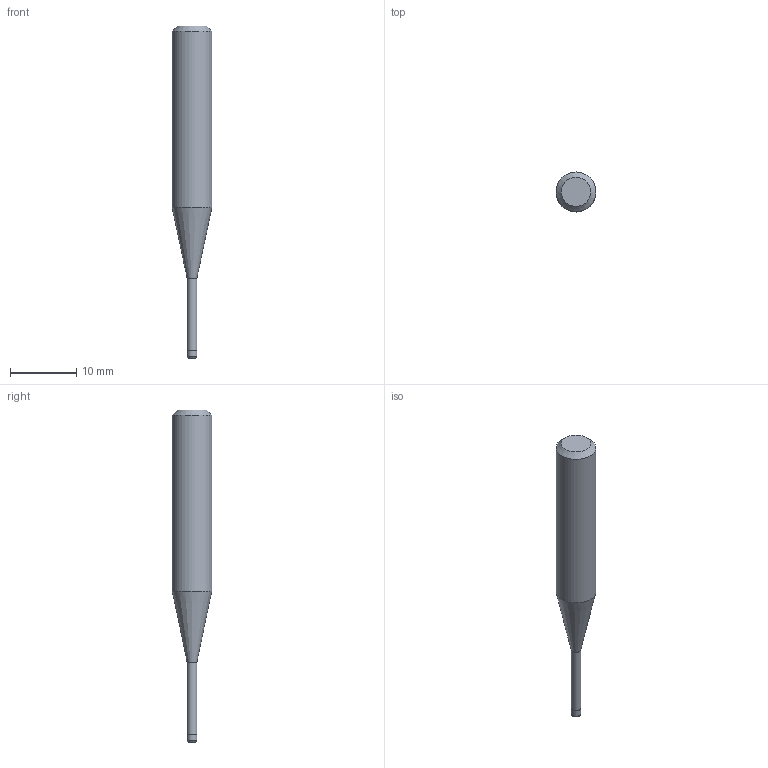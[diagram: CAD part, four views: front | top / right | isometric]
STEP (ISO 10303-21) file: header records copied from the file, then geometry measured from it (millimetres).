
FILE_DESCRIPTION((''),'2;1');
FILE_NAME('C:\Users\nsx150\AppData\Local\Temp\Mastercam 2021\17T8Q8S9EB\TEMP.step','2021-04-21T14:35:52',(''),(''),'STEP Write','Mastercam 2021 ... CNC Software, Inc.','');
FILE_SCHEMA(('AUTOMOTIVE_DESIGN'));
Length unit declared in the file: millimetre
Products named in the file (1): None
Bounding box: 6 x 6 x 50 mm (x, y, z)
Volume: 917.4 mm3; surface area: 720.8 mm2
Topology: 2 solids, 2 shells, 10 faces, 14 edges, 8 vertices
Faces by surface type: plane 4, cylinder 3, cone 2, torus 1
Full cylindrical faces by diameter (mm): 1.45 x1, 1.5 x1, 6 x1
Entity records: 232 total; most frequent: DIRECTION 40, CARTESIAN_POINT 28, AXIS2_PLACEMENT_3D 20, ORIENTED_EDGE 16, EDGE_LOOP 16, STYLED_ITEM 13, ADVANCED_FACE 10, FACE_BOUND 10
